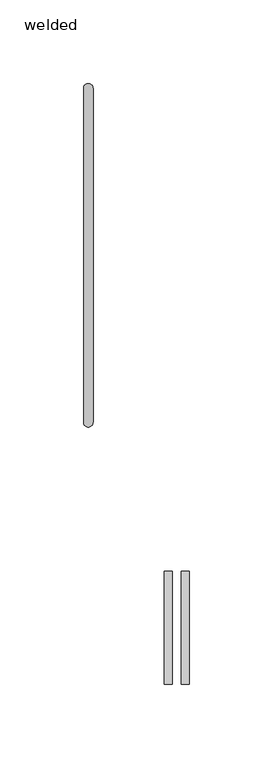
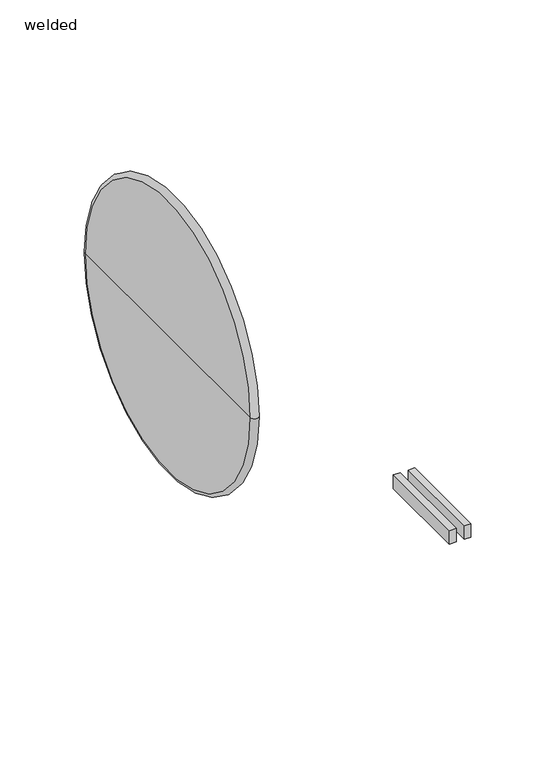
"""IFC4 building model written with IfcOpenShell, lengths in millimetres: pipe fitting geometry, NLRS_52_PIF_UN_HDPE weld_Akatherm : welded."""

from ifc_helpers import new_model, si_unit, point, frame, origin, place, context, project, spatial, polyline, circle_curve, ellipse_curve, trimmed, outline, extrude, source, transform, mapped, element, save
from ifc_brep_helpers import plane_surface, revolved_surface, advanced_brep


def welded_b2ff7ccb(model_context):
    return source(origin(), model_context, "Body", "SolidModel", [
        extrude(outline(polyline([(42.5311847, -256.9421922), (42.5311847, -189.143993), (47.3087456, -189.143993), (47.3087456, -256.9421922), (42.5311847, -256.9421922)])), frame((0.0, 0.0, -15.0), z_axis=(0.0, 0.0, 1.0), x_axis=(1.0, 0.0, 0.0)), (0.0, 0.0, 1.0), 10.0),
        extrude(outline(polyline([(52.9005519, -256.9421922), (52.9005519, -189.143993), (57.6781127, -189.143993), (57.6781127, -256.9421922), (52.9005519, -256.9421922)])), frame((0.0, 0.0, -15.0), z_axis=(0.0, 0.0, 1.0), x_axis=(1.0, 0.0, 0.0)), (0.0, 0.0, 1.0), 10.0),
        advanced_brep(
        [(-5.7, -100.0, 0.0), (-5.7, 100.0, 0.0), (0.0, 100.0, 0.0), (0.0, -100.0, 0.0), (-5.7, 0.0, 0.0), (0.0, 0.0, 0.0)],
        [
            (0, 1, circle_curve(frame((-5.7, 0.0, 0.0), z_axis=(1.0, 0.0, 0.0), x_axis=(0.0, 1.0, 0.0)), 100.0)),
            (1, 2, circle_curve(frame((-2.85, 100.0, 0.0), z_axis=(0.0, 0.0, -1.0), x_axis=(1.0, 0.0, 0.0)), 2.85)),
            (2, 3, circle_curve(frame((0.0, 0.0, 0.0), z_axis=(-1.0, 0.0, 0.0), x_axis=(0.0, 1.0, 0.0)), 100.0)),
            (3, 0, circle_curve(frame((-2.85, -100.0, 0.0), z_axis=(0.0, 0.0, -1.0), x_axis=(1.0, 0.0, 0.0)), 2.85)),
            (1, 0, circle_curve(frame((-5.7, 0.0, 0.0), z_axis=(1.0, 0.0, 0.0), x_axis=(0.0, 1.0, 0.0)), 100.0)),
            (3, 2, circle_curve(frame((0.0, 0.0, 0.0), z_axis=(-1.0, 0.0, 0.0), x_axis=(0.0, 1.0, 0.0)), 100.0)),
            (4, 1),
            (0, 4),
            (2, 5),
            (5, 3),
        ],
        [
            revolved_surface(trimmed(ellipse_curve(frame((-2.85, 100.0, 0.0), z_axis=(0.0, 0.0, 1.0), x_axis=(1.0, 0.0, 0.0)), 2.85, 2.85), [point((0.0, 100.0, 0.0))], [point((-5.7, 100.0, 0.0))], True, "CARTESIAN"), (-43.85, 0.0, 0.0), (-1.0, 0.0, 0.0)),
            plane_surface(frame((-5.7, 0.0, 0.0), z_axis=(-1.0, 0.0, 0.0), x_axis=(0.0, 1.0, 0.0))),
            plane_surface(frame((0.0, 0.0, 0.0), z_axis=(1.0, 0.0, 0.0), x_axis=(0.0, 1.0, 0.0))),
        ],
        [
            (0, [[1, 2, 3, 4]]),
            (0, [[5, -4, 6, -2]]),
            (1, [[7, -1, 8]]),
            (1, [[-8, -5, -7]]),
            (2, [[-3, 9, 10]]),
            (2, [[-6, -10, -9]]),
        ],
    ),
    ])


if __name__ == "__main__":
    model = new_model("IFC4")
    model_context = context("Model", 3, world=origin())
    ifc_project = project(units=[si_unit("LENGTHUNIT", "METRE", prefix="MILLI")], contexts=[model_context])
    site = spatial("IfcSite", under=ifc_project)
    building = spatial("IfcBuilding", under=site)
    placement = place(None, origin())
    welded_shape = welded_b2ff7ccb(model_context)
    element("IfcPipeFitting", 1, ObjectType="NLRS_52_PIF_UN_HDPE weld_Akatherm : welded", at=placement, inside=building, context=model_context, shape_type="MappedRepresentation", body=[
        mapped(welded_shape, transform((0.0, 0.0, 0.0), x_axis=(1.0, 0.0, 0.0), y_axis=(0.0, 1.0, 0.0), z_axis=(0.0, 0.0, 1.0))),
    ])
    save(model, "model.ifc")
